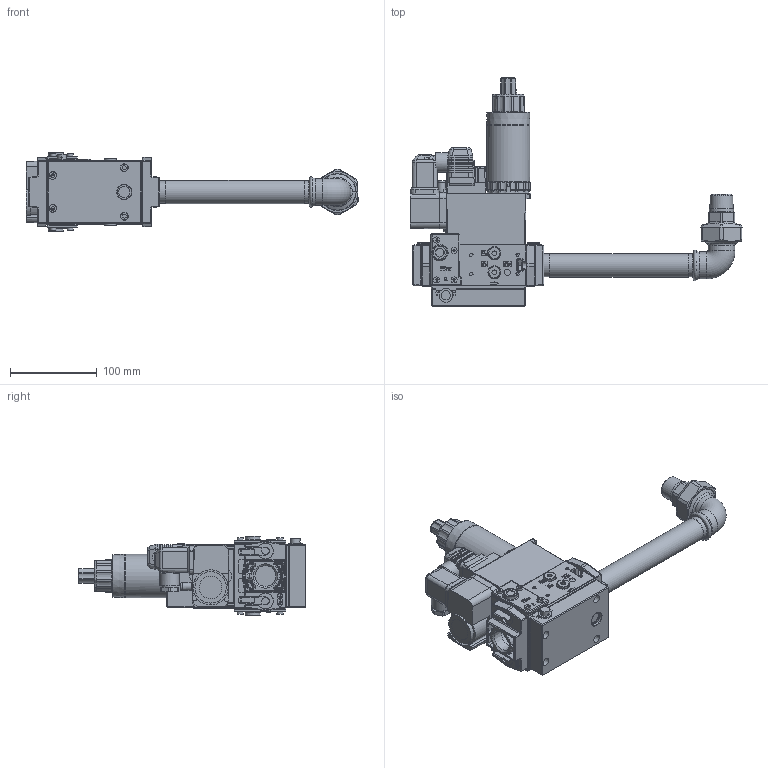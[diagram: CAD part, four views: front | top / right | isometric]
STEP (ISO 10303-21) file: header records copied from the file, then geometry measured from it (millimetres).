
FILE_DESCRIPTION (( 'STEP AP214' ), '1' );
FILE_NAME ('19990790.STEP', '2026-10-09T12:05:37', ( '' ), ( '' ), 'SwSTEP 2.0', 'SolidWorks 2025', '' );
FILE_SCHEMA (( 'AUTOMOTIVE_DESIGN' ));
Length unit declared in the file: millimetre
Products named in the file (1): 19990790
Bounding box: 382.99 x 263 x 92 mm (x, y, z)
Volume: 1660948.3 mm3; surface area: 228634.7 mm2
Topology: 49 solids, 49 shells, 4195 faces, 10579 edges, 6610 vertices
Faces by surface type: plane 1869, bspline 1062, cylinder 889, cone 270, torus 81, sphere 24
Full cylindrical faces by diameter (mm): 0.7 x2, 1.5 x2, 1.95 x1, 2 x14, 2.45 x1, 2.459 x1, 2.5 x1, 2.6 x1, 2.9 x2, 3 x1, 3.55 x12, 4 x17, 4.5 x2, 5 x2, 7 x10, 8 x2, 9 x2, 10 x2, 10.6 x2, 13 x1, 13.1 x1, 14 x6, 15 x11, 15.2 x1, 15.8 x1, 18 x1, 21.6 x1, 22.5 x2, 24.117 x1, 26 x1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
Entity records: 180625 total; most frequent: CARTESIAN_POINT 91786, ORIENTED_EDGE 20228, DIRECTION 14185, EDGE_CURVE 10114, VERTEX_POINT 6487, VECTOR 5239, LINE 5239, EDGE_LOOP 4739
